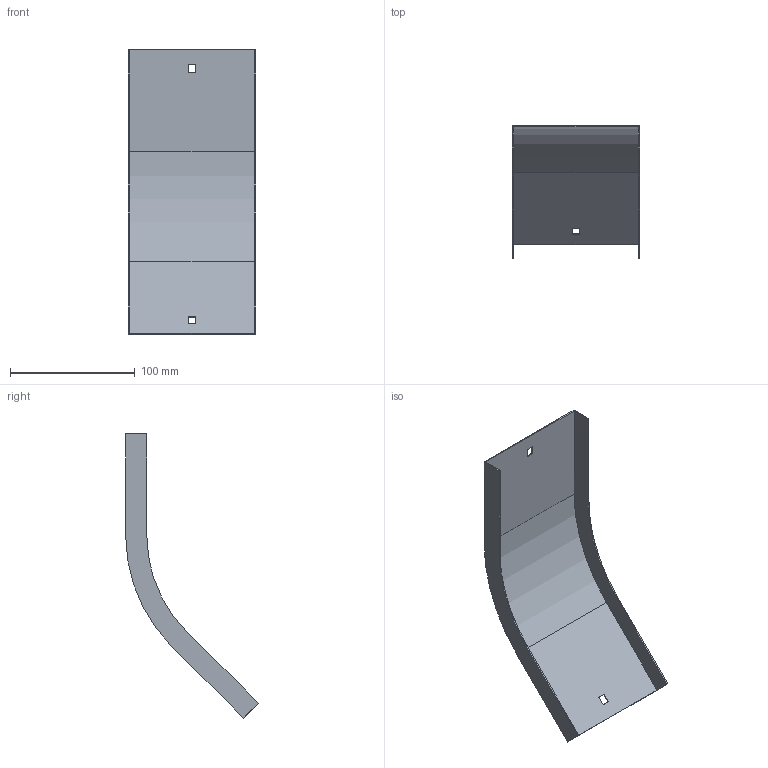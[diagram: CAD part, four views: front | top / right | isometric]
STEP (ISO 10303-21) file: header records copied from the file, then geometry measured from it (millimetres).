
FILE_DESCRIPTION (( 'STEP AP214' ), '1' );
FILE_NAME ('OD4_101.step', '2025-07-16T09:11:15', ( '' ), ( '' ), 'SwSTEP 2.0', 'SolidWorks 2023', '' );
FILE_SCHEMA (( 'AUTOMOTIVE_DESIGN' ));
Length unit declared in the file: millimetre
Products named in the file (1): OD4_101
Bounding box: 102 x 106.5 x 228.09 mm (x, y, z)
Volume: 34731.2 mm3; surface area: 70280.2 mm2
Topology: 1 solids, 1 shells, 26 faces, 72 edges, 48 vertices
Faces by surface type: plane 22, cylinder 4
Entity records: 855 total; most frequent: CARTESIAN_POINT 147, ORIENTED_EDGE 144, DIRECTION 134, EDGE_CURVE 72, LINE 64, VECTOR 64, VERTEX_POINT 48, AXIS2_PLACEMENT_3D 35
